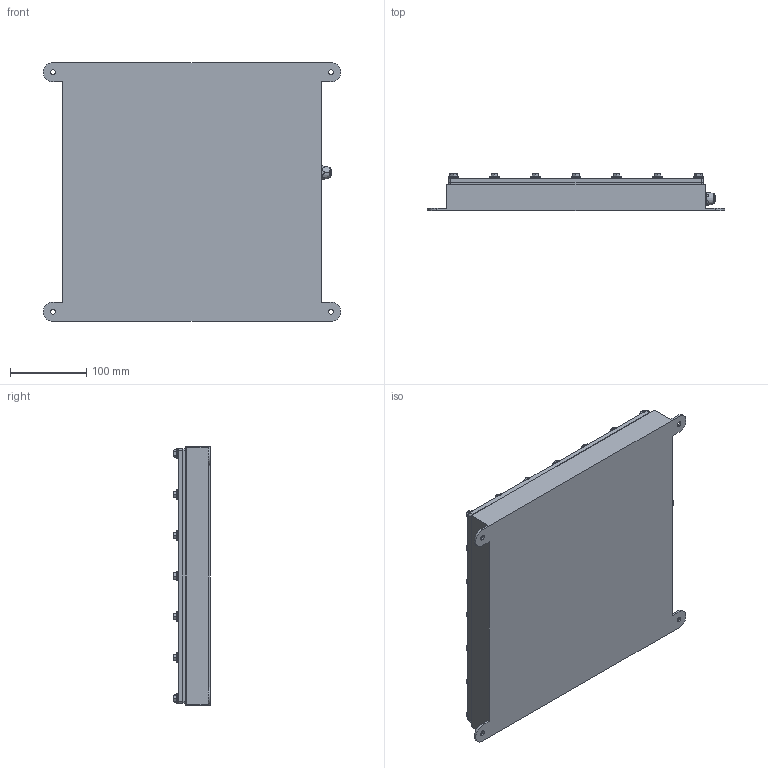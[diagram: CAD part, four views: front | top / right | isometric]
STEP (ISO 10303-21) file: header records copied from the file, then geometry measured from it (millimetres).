
FILE_DESCRIPTION (( 'STEP AP203' ), '1' );
FILE_NAME ('SOBLW-300x300.STEP', '2011-01-26T21:59:45', ( 'Chris Mcgeary' ), ( 'Allison Park Group' ), 'SwSTEP 2.0', 'SolidWorks 2010', '' );
FILE_SCHEMA (( 'CONFIG_CONTROL_DESIGN' ));
Length unit declared in the file: millimetre
Products named in the file (1): SOBLW-300x300
Bounding box: 390.4 x 48.23 x 339.6 mm (x, y, z)
Volume: 1144686.2 mm3; surface area: 658778.9 mm2
Topology: 76 solids, 76 shells, 1484 faces, 3332 edges, 2036 vertices
Faces by surface type: cylinder 584, plane 525, cone 312, bspline 61, torus 2
Entity records: 46260 total; most frequent: CARTESIAN_POINT 12239, DIRECTION 7507, ORIENTED_EDGE 6664, EDGE_CURVE 3332, AXIS2_PLACEMENT_3D 3032, VERTEX_POINT 2036, EDGE_LOOP 1772, CIRCLE 1608
